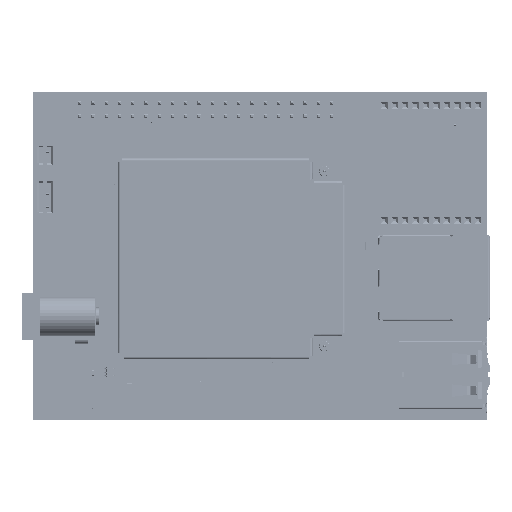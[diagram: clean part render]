
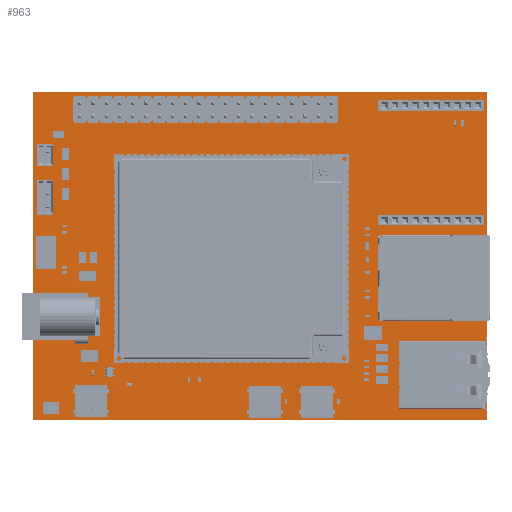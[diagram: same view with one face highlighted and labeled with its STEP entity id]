
A CAD part, top view. The second image highlights one B-rep face of the part: STEP entity #963.
In plain terms, the highlighted planar face has unit normal (0, 0, 1).
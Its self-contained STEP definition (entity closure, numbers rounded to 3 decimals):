
#568 = VERTEX_POINT('',#569);
#569 = CARTESIAN_POINT('',(0.,0.,1.193));
#575 = EDGE_CURVE('',#568,#576,#578,.T.);
#576 = VERTEX_POINT('',#577);
#577 = CARTESIAN_POINT('',(0.,63.,1.193));
#578 = LINE('',#579,#580);
#579 = CARTESIAN_POINT('',(0.,0.,1.193));
#580 = VECTOR('',#581,1.);
#581 = DIRECTION('',(0.,1.,0.));
#606 = EDGE_CURVE('',#576,#607,#609,.T.);
#607 = VERTEX_POINT('',#608);
#608 = CARTESIAN_POINT('',(87.,63.,1.193));
#609 = LINE('',#610,#611);
#610 = CARTESIAN_POINT('',(0.,63.,1.193));
#611 = VECTOR('',#612,1.);
#612 = DIRECTION('',(1.,0.,0.));
#637 = EDGE_CURVE('',#607,#638,#640,.T.);
#638 = VERTEX_POINT('',#639);
#639 = CARTESIAN_POINT('',(87.,0.,1.193));
#640 = LINE('',#641,#642);
#641 = CARTESIAN_POINT('',(87.,63.,1.193));
#642 = VECTOR('',#643,1.);
#643 = DIRECTION('',(0.,-1.,0.));
#668 = EDGE_CURVE('',#638,#568,#669,.T.);
#669 = LINE('',#670,#671);
#670 = CARTESIAN_POINT('',(87.,0.,1.193));
#671 = VECTOR('',#672,1.);
#672 = DIRECTION('',(-1.,0.,0.));
#692 = VERTEX_POINT('',#693);
#693 = CARTESIAN_POINT('',(28.043,14.208,1.193));
#699 = EDGE_CURVE('',#692,#700,#702,.T.);
#700 = VERTEX_POINT('',#701);
#701 = CARTESIAN_POINT('',(47.903,14.208,1.193));
#702 = LINE('',#703,#704);
#703 = CARTESIAN_POINT('',(28.043,14.208,1.193));
#704 = VECTOR('',#705,1.);
#705 = DIRECTION('',(1.,0.,0.));
#732 = VERTEX_POINT('',#733);
#733 = CARTESIAN_POINT('',(27.543,14.708,1.193));
#739 = EDGE_CURVE('',#732,#692,#740,.T.);
#740 = CIRCLE('',#741,0.498);
#741 = AXIS2_PLACEMENT_3D('',#742,#743,#744);
#742 = CARTESIAN_POINT('',(28.041,14.706,1.193));
#743 = DIRECTION('',(0.,0.,1.));
#744 = DIRECTION('',(-1.,0.003,0.));
#765 = VERTEX_POINT('',#766);
#766 = CARTESIAN_POINT('',(27.543,47.268,1.193));
#772 = EDGE_CURVE('',#765,#732,#773,.T.);
#773 = LINE('',#774,#775);
#774 = CARTESIAN_POINT('',(27.543,47.268,1.193));
#775 = VECTOR('',#776,1.);
#776 = DIRECTION('',(0.,-1.,0.));
#796 = VERTEX_POINT('',#797);
#797 = CARTESIAN_POINT('',(28.043,47.768,1.193));
#803 = EDGE_CURVE('',#796,#765,#804,.T.);
#804 = CIRCLE('',#805,0.498);
#805 = AXIS2_PLACEMENT_3D('',#806,#807,#808);
#806 = CARTESIAN_POINT('',(28.041,47.27,1.193));
#807 = DIRECTION('',(0.,0.,1.));
#808 = DIRECTION('',(0.003,1.,0.));
#829 = VERTEX_POINT('',#830);
#830 = CARTESIAN_POINT('',(47.903,47.768,1.193));
#836 = EDGE_CURVE('',#829,#796,#837,.T.);
#837 = LINE('',#838,#839);
#838 = CARTESIAN_POINT('',(47.903,47.768,1.193));
#839 = VECTOR('',#840,1.);
#840 = DIRECTION('',(-1.,0.,0.));
#860 = VERTEX_POINT('',#861);
#861 = CARTESIAN_POINT('',(48.403,47.268,1.193));
#867 = EDGE_CURVE('',#860,#829,#868,.T.);
#868 = CIRCLE('',#869,0.498);
#869 = AXIS2_PLACEMENT_3D('',#870,#871,#872);
#870 = CARTESIAN_POINT('',(47.905,47.27,1.193));
#871 = DIRECTION('',(0.,0.,1.));
#872 = DIRECTION('',(1.,-0.003,0.));
#893 = VERTEX_POINT('',#894);
#894 = CARTESIAN_POINT('',(48.403,14.708,1.193));
#900 = EDGE_CURVE('',#893,#860,#901,.T.);
#901 = LINE('',#902,#903);
#902 = CARTESIAN_POINT('',(48.403,14.708,1.193));
#903 = VECTOR('',#904,1.);
#904 = DIRECTION('',(0.,1.,0.));
#922 = EDGE_CURVE('',#700,#893,#923,.T.);
#923 = CIRCLE('',#924,0.498);
#924 = AXIS2_PLACEMENT_3D('',#925,#926,#927);
#925 = CARTESIAN_POINT('',(47.905,14.706,1.193));
#926 = DIRECTION('',(0.,0.,1.));
#927 = DIRECTION('',(-0.003,-1.,0.));
#963 = ADVANCED_FACE('',(#964,#970),#980,.T.);
#964 = FACE_BOUND('',#965,.F.);
#965 = EDGE_LOOP('',(#966,#967,#968,#969));
#966 = ORIENTED_EDGE('',*,*,#575,.T.);
#967 = ORIENTED_EDGE('',*,*,#606,.T.);
#968 = ORIENTED_EDGE('',*,*,#637,.T.);
#969 = ORIENTED_EDGE('',*,*,#668,.T.);
#970 = FACE_BOUND('',#971,.T.);
#971 = EDGE_LOOP('',(#972,#973,#974,#975,#976,#977,#978,#979));
#972 = ORIENTED_EDGE('',*,*,#699,.F.);
#973 = ORIENTED_EDGE('',*,*,#739,.F.);
#974 = ORIENTED_EDGE('',*,*,#772,.F.);
#975 = ORIENTED_EDGE('',*,*,#803,.F.);
#976 = ORIENTED_EDGE('',*,*,#836,.F.);
#977 = ORIENTED_EDGE('',*,*,#867,.F.);
#978 = ORIENTED_EDGE('',*,*,#900,.F.);
#979 = ORIENTED_EDGE('',*,*,#922,.F.);
#980 = PLANE('',#981);
#981 = AXIS2_PLACEMENT_3D('',#982,#983,#984);
#982 = CARTESIAN_POINT('',(0.,0.,1.193));
#983 = DIRECTION('',(0.,0.,1.));
#984 = DIRECTION('',(1.,0.,0.));
